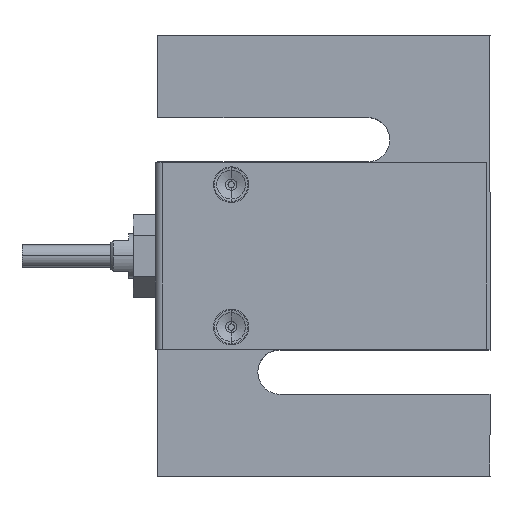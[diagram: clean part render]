
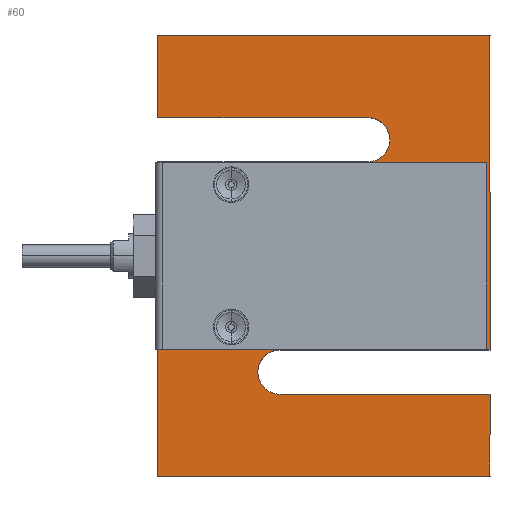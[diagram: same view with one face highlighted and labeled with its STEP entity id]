
A CAD part, top view. The second image highlights one B-rep face of the part: STEP entity #60.
In plain terms, the highlighted planar face has unit normal (0, 0, 1).
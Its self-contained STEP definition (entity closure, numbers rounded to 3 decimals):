
#60 = ADVANCED_FACE ( 'NONE', ( #1985, #1980 ), #1987, .T. ) ;
#172 = EDGE_CURVE ( 'NONE', #1711, #1719, #747, .T. ) ;
#173 = EDGE_CURVE ( 'NONE', #1691, #1715, #2399, .T. ) ;
#528 = VECTOR ( 'NONE', #4105, 1000. ) ;
#548 = VECTOR ( 'NONE', #4115, 1000. ) ;
#555 = VECTOR ( 'NONE', #4093, 1000. ) ;
#747 = LINE ( 'NONE', #752, #2439 ) ;
#752 = CARTESIAN_POINT ( 'NONE',  ( -37.34, -49.5, 30.74 ) ) ;
#753 = DIRECTION ( 'NONE',  ( 1., 0., 0. ) ) ;
#754 = CARTESIAN_POINT ( 'NONE',  ( 0., 0., 30.74 ) ) ;
#755 = DIRECTION ( 'NONE',  ( 0., 0., 1. ) ) ;
#756 = DIRECTION ( 'NONE',  ( 1., 0., 0. ) ) ;
#844 = EDGE_LOOP ( 'NONE', ( #1448, #1449, #1450, #1451, #1452, #1453, #1454, #1455, #1456, #1457, #1458, #1459, #1460 ) ) ;
#845 = EDGE_LOOP ( 'NONE', ( #1446, #1447 ) ) ;
#1446 = ORIENTED_EDGE ( 'NONE', *, *, #173, .F. ) ;
#1447 = ORIENTED_EDGE ( 'NONE', *, *, #3319, .F. ) ;
#1448 = ORIENTED_EDGE ( 'NONE', *, *, #3327, .T. ) ;
#1449 = ORIENTED_EDGE ( 'NONE', *, *, #3332, .T. ) ;
#1450 = ORIENTED_EDGE ( 'NONE', *, *, #3333, .T. ) ;
#1451 = ORIENTED_EDGE ( 'NONE', *, *, #3321, .T. ) ;
#1452 = ORIENTED_EDGE ( 'NONE', *, *, #3337, .T. ) ;
#1453 = ORIENTED_EDGE ( 'NONE', *, *, #3340, .T. ) ;
#1454 = ORIENTED_EDGE ( 'NONE', *, *, #3344, .T. ) ;
#1455 = ORIENTED_EDGE ( 'NONE', *, *, #3347, .T. ) ;
#1456 = ORIENTED_EDGE ( 'NONE', *, *, #2543, .T. ) ;
#1457 = ORIENTED_EDGE ( 'NONE', *, *, #2546, .T. ) ;
#1458 = ORIENTED_EDGE ( 'NONE', *, *, #2549, .T. ) ;
#1459 = ORIENTED_EDGE ( 'NONE', *, *, #2553, .T. ) ;
#1460 = ORIENTED_EDGE ( 'NONE', *, *, #172, .T. ) ;
#1494 = VERTEX_POINT ( 'NONE', #2804 ) ;
#1691 = VERTEX_POINT ( 'NONE', #2892 ) ;
#1695 = VERTEX_POINT ( 'NONE', #2896 ) ;
#1701 = VERTEX_POINT ( 'NONE', #2902 ) ;
#1703 = VERTEX_POINT ( 'NONE', #2904 ) ;
#1704 = VERTEX_POINT ( 'NONE', #2905 ) ;
#1705 = VERTEX_POINT ( 'NONE', #2906 ) ;
#1707 = VERTEX_POINT ( 'NONE', #2908 ) ;
#1708 = VERTEX_POINT ( 'NONE', #2909 ) ;
#1709 = VERTEX_POINT ( 'NONE', #2910 ) ;
#1711 = VERTEX_POINT ( 'NONE', #2912 ) ;
#1715 = VERTEX_POINT ( 'NONE', #2916 ) ;
#1719 = VERTEX_POINT ( 'NONE', #2920 ) ;
#1721 = VERTEX_POINT ( 'NONE', #2922 ) ;
#1782 = VERTEX_POINT ( 'NONE', #2928 ) ;
#1980 = FACE_OUTER_BOUND ( 'NONE', #844, .T. ) ;
#1982 = DIRECTION ( 'NONE',  ( 0., 0., 1. ) ) ;
#1984 = CARTESIAN_POINT ( 'NONE',  ( 9.84, 26.1, 30.74 ) ) ;
#1985 = FACE_BOUND ( 'NONE', #845, .T. ) ;
#1987 = PLANE ( 'NONE',  #3376 ) ;
#1989 = DIRECTION ( 'NONE',  ( 1., 0., 0. ) ) ;
#2100 = VECTOR ( 'NONE', #4054, 1000. ) ;
#2282 = AXIS2_PLACEMENT_3D ( 'NONE', #3014, #3015, #3016 ) ;
#2285 = VECTOR ( 'NONE', #3023, 1000. ) ;
#2307 = VECTOR ( 'NONE', #3006, 1000. ) ;
#2338 = VECTOR ( 'NONE', #3034, 1000. ) ;
#2342 = CIRCLE ( 'NONE', #2282, 5. ) ;
#2399 = CIRCLE ( 'NONE', #2437, 15. ) ;
#2437 = AXIS2_PLACEMENT_3D ( 'NONE', #754, #755, #756 ) ;
#2439 = VECTOR ( 'NONE', #753, 1000. ) ;
#2543 = EDGE_CURVE ( 'NONE', #1701, #1709, #2986, .T. ) ;
#2546 = EDGE_CURVE ( 'NONE', #1709, #1707, #2342, .T. ) ;
#2549 = EDGE_CURVE ( 'NONE', #1707, #1708, #3013, .T. ) ;
#2553 = EDGE_CURVE ( 'NONE', #1708, #1711, #3032, .T. ) ;
#2804 = CARTESIAN_POINT ( 'NONE',  ( 37.34, -31.1, 30.74 ) ) ;
#2892 = CARTESIAN_POINT ( 'NONE',  ( 15., 0., 30.74 ) ) ;
#2896 = CARTESIAN_POINT ( 'NONE',  ( -9.84, -21.1, 30.74 ) ) ;
#2902 = CARTESIAN_POINT ( 'NONE',  ( -37.34, 31.1, 30.74 ) ) ;
#2904 = CARTESIAN_POINT ( 'NONE',  ( 37.34, 49.5, 30.74 ) ) ;
#2905 = CARTESIAN_POINT ( 'NONE',  ( -37.34, 49.5, 30.74 ) ) ;
#2906 = CARTESIAN_POINT ( 'NONE',  ( 37.34, -21.1, 30.74 ) ) ;
#2908 = CARTESIAN_POINT ( 'NONE',  ( 9.84, 21.1, 30.74 ) ) ;
#2909 = CARTESIAN_POINT ( 'NONE',  ( -37.34, 21.1, 30.74 ) ) ;
#2910 = CARTESIAN_POINT ( 'NONE',  ( 9.84, 31.1, 30.74 ) ) ;
#2912 = CARTESIAN_POINT ( 'NONE',  ( -37.34, -49.5, 30.74 ) ) ;
#2916 = CARTESIAN_POINT ( 'NONE',  ( -15., 0., 30.74 ) ) ;
#2920 = CARTESIAN_POINT ( 'NONE',  ( 37.34, -49.5, 30.74 ) ) ;
#2922 = CARTESIAN_POINT ( 'NONE',  ( -14.84, -26.1, 30.74 ) ) ;
#2928 = CARTESIAN_POINT ( 'NONE',  ( -9.84, -31.1, 30.74 ) ) ;
#2986 = LINE ( 'NONE', #3005, #2307 ) ;
#3005 = CARTESIAN_POINT ( 'NONE',  ( 9.84, 31.1, 30.74 ) ) ;
#3006 = DIRECTION ( 'NONE',  ( 1., 0., 0. ) ) ;
#3013 = LINE ( 'NONE', #3022, #2285 ) ;
#3014 = CARTESIAN_POINT ( 'NONE',  ( 9.84, 26.1, 30.74 ) ) ;
#3015 = DIRECTION ( 'NONE',  ( 0., 0., -1. ) ) ;
#3016 = DIRECTION ( 'NONE',  ( 1., 0., 0. ) ) ;
#3022 = CARTESIAN_POINT ( 'NONE',  ( 9.84, 21.1, 30.74 ) ) ;
#3023 = DIRECTION ( 'NONE',  ( -1., 0., 0. ) ) ;
#3032 = LINE ( 'NONE', #3033, #2338 ) ;
#3033 = CARTESIAN_POINT ( 'NONE',  ( -37.34, 21.1, 30.74 ) ) ;
#3034 = DIRECTION ( 'NONE',  ( 0., -1., 0. ) ) ;
#3171 = CIRCLE ( 'NONE', #3182, 5. ) ;
#3175 = AXIS2_PLACEMENT_3D ( 'NONE', #4030, #4031, #4032 ) ;
#3182 = AXIS2_PLACEMENT_3D ( 'NONE', #4035, #4036, #4037 ) ;
#3188 = CIRCLE ( 'NONE', #3175, 15. ) ;
#3319 = EDGE_CURVE ( 'NONE', #1715, #1691, #3188, .T. ) ;
#3321 = EDGE_CURVE ( 'NONE', #1721, #1695, #3171, .T. ) ;
#3327 = EDGE_CURVE ( 'NONE', #1719, #1494, #4045, .T. ) ;
#3332 = EDGE_CURVE ( 'NONE', #1494, #1782, #4058, .T. ) ;
#3333 = EDGE_CURVE ( 'NONE', #1782, #1721, #4611, .T. ) ;
#3337 = EDGE_CURVE ( 'NONE', #1695, #1705, #4074, .T. ) ;
#3340 = EDGE_CURVE ( 'NONE', #1705, #1703, #4073, .T. ) ;
#3344 = EDGE_CURVE ( 'NONE', #1703, #1704, #4095, .T. ) ;
#3347 = EDGE_CURVE ( 'NONE', #1704, #1701, #4112, .T. ) ;
#3376 = AXIS2_PLACEMENT_3D ( 'NONE', #1984, #1982, #1989 ) ;
#4030 = CARTESIAN_POINT ( 'NONE',  ( 0., 0., 30.74 ) ) ;
#4031 = DIRECTION ( 'NONE',  ( 0., 0., 1. ) ) ;
#4032 = DIRECTION ( 'NONE',  ( 1., 0., 0. ) ) ;
#4035 = CARTESIAN_POINT ( 'NONE',  ( -9.84, -26.1, 30.74 ) ) ;
#4036 = DIRECTION ( 'NONE',  ( 0., 0., -1. ) ) ;
#4037 = DIRECTION ( 'NONE',  ( 1., 0., 0. ) ) ;
#4045 = LINE ( 'NONE', #4053, #2100 ) ;
#4053 = CARTESIAN_POINT ( 'NONE',  ( 37.34, -31.1, 30.74 ) ) ;
#4054 = DIRECTION ( 'NONE',  ( 0., 1., 0. ) ) ;
#4058 = LINE ( 'NONE', #4066, #4620 ) ;
#4066 = CARTESIAN_POINT ( 'NONE',  ( -9.84, -31.1, 30.74 ) ) ;
#4067 = DIRECTION ( 'NONE',  ( -1., 0., 0. ) ) ;
#4070 = CARTESIAN_POINT ( 'NONE',  ( -9.84, -26.1, 30.74 ) ) ;
#4071 = DIRECTION ( 'NONE',  ( 0., 0., -1. ) ) ;
#4072 = DIRECTION ( 'NONE',  ( 1., 0., 0. ) ) ;
#4073 = LINE ( 'NONE', #4092, #555 ) ;
#4074 = LINE ( 'NONE', #4083, #4619 ) ;
#4083 = CARTESIAN_POINT ( 'NONE',  ( -9.84, -21.1, 30.74 ) ) ;
#4084 = DIRECTION ( 'NONE',  ( 1., 0., 0. ) ) ;
#4092 = CARTESIAN_POINT ( 'NONE',  ( 37.34, 49.5, 30.74 ) ) ;
#4093 = DIRECTION ( 'NONE',  ( 0., 1., 0. ) ) ;
#4095 = LINE ( 'NONE', #4104, #528 ) ;
#4104 = CARTESIAN_POINT ( 'NONE',  ( -37.34, 49.5, 30.74 ) ) ;
#4105 = DIRECTION ( 'NONE',  ( -1., 0., 0. ) ) ;
#4112 = LINE ( 'NONE', #4114, #548 ) ;
#4114 = CARTESIAN_POINT ( 'NONE',  ( -37.34, 49.5, 30.74 ) ) ;
#4115 = DIRECTION ( 'NONE',  ( 0., -1., 0. ) ) ;
#4611 = CIRCLE ( 'NONE', #4615, 5. ) ;
#4615 = AXIS2_PLACEMENT_3D ( 'NONE', #4070, #4071, #4072 ) ;
#4619 = VECTOR ( 'NONE', #4084, 1000. ) ;
#4620 = VECTOR ( 'NONE', #4067, 1000. ) ;
